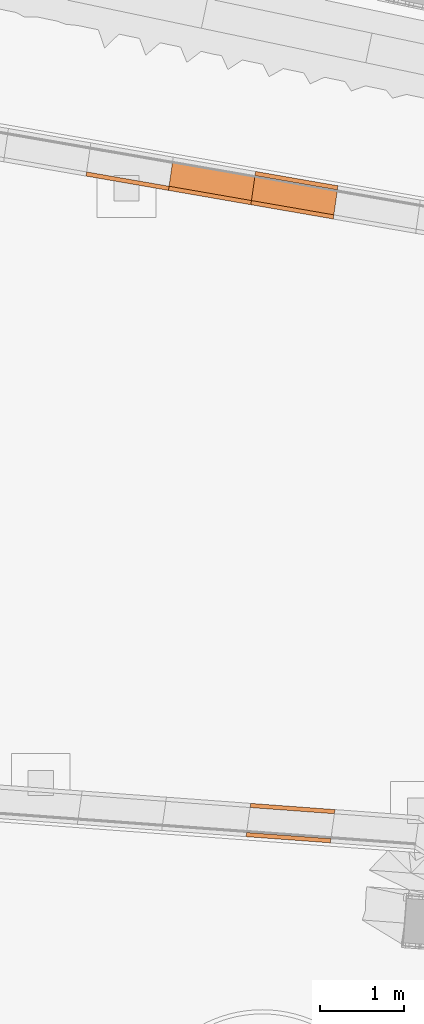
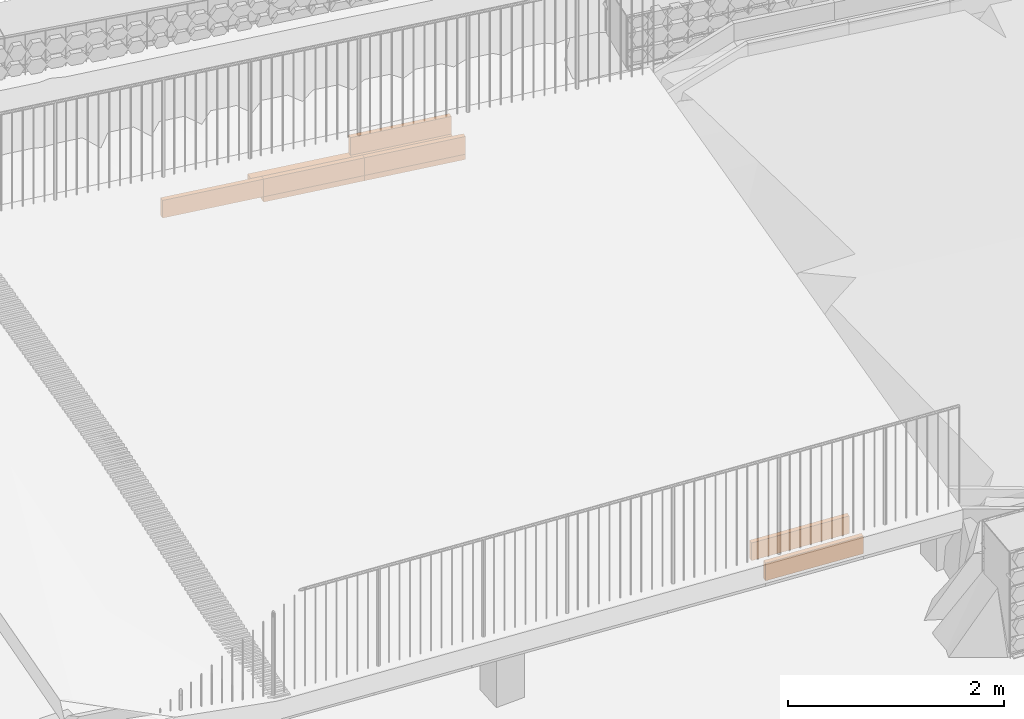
# Not in any storey, part 21 of 45: 8 proxies.
"""IFC4 model written with IfcOpenShell, lengths in metres."""

from ifc_helpers import new_model, si_unit, direction, frame, origin_with_axes, place, context, subcontext, project, spatial, polygons, material, element, save


model = new_model("IFC4")

# Units and contexts
model_context = context("Model", 3, precision=1e-05, world=origin_with_axes(), true_north=direction((0.0, 1.0)))
body_context = subcontext(model_context, "Body", "Model", "MODEL_VIEW")
ifc_project = project(units=[si_unit("VOLUMEUNIT", "CUBIC_METRE"), si_unit("LENGTHUNIT", "METRE"), si_unit("AREAUNIT", "SQUARE_METRE")], contexts=[model_context])

# Site
site_placement = place(None, origin_with_axes())
site = spatial("IfcSite", under=ifc_project, at=site_placement, Name="Lares · Rua das Mercês · artigo 4771")

# Proxies
ifc_material = material(Name="Caleiras · betão", Category="concrete")
proxy_1_placement = place(site_placement, frame((0.0, 0.0, 0.0), z_axis=(0.0, 0.0, 1.0), x_axis=(1.0, -1.03767253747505e-17, 0.0)))
element("IfcBuildingElementProxy", 1, at=proxy_1_placement, inside=site, material=ifc_material, Name="Acesso · canal lateral", ObjectType="Acesso · canal lateral", PredefinedType="USERDEFINED", context=body_context, shape_type="Tessellation", body=[
    polygons([(53.6729766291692, 2.72514176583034, 15.285), (53.6799395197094, 2.77465457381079, 15.285), (54.6839488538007, 2.70086581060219, 15.286), (54.6769860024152, 2.65135299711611, 15.286), (53.6729766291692, 2.72514176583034, 15.485), (53.6799395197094, 2.77465457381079, 15.485), (54.6839488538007, 2.70086581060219, 15.486), (54.6769860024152, 2.65135299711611, 15.486)], [[[4, 3, 2, 1]], [[5, 6, 7, 8]], [[1, 2, 6, 5]], [[2, 3, 7, 6]], [[3, 4, 8, 7]], [[4, 1, 5, 8]]]),
])
proxy_2_placement = place(site_placement, frame((0.0, 0.0, 0.0), z_axis=(0.0, 0.0, 1.0), x_axis=(1.0, -1.03767253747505e-17, 0.0)))
element("IfcBuildingElementProxy", 2, at=proxy_2_placement, inside=site, material=ifc_material, Name="Acesso · canal lateral", ObjectType="Acesso · canal lateral", PredefinedType="USERDEFINED", context=body_context, shape_type="Tessellation", body=[
    polygons([(53.721716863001, 3.07173142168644, 15.285), (53.728679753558, 3.12124422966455, 15.285), (54.7326888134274, 3.04745550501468, 15.286), (54.7257259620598, 2.99794269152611, 15.286), (53.721716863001, 3.07173142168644, 15.485), (53.728679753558, 3.12124422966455, 15.485), (54.7326888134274, 3.04745550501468, 15.486), (54.7257259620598, 2.99794269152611, 15.486)], [[[4, 3, 2, 1]], [[5, 6, 7, 8]], [[1, 2, 6, 5]], [[2, 3, 7, 6]], [[3, 4, 8, 7]], [[4, 1, 5, 8]]]),
])
proxy_3_placement = place(site_placement, frame((0.0, 0.0, 0.0), z_axis=(0.0, 0.0, 1.0), x_axis=(1.0, -1.03767253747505e-17, 0.0)))
element("IfcBuildingElementProxy", 3, at=proxy_3_placement, inside=site, material=ifc_material, Name="Acesso · canal lateral", ObjectType="Acesso · canal lateral", PredefinedType="USERDEFINED", context=body_context, shape_type="Tessellation", body=[
    polygons([(51.7681638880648, 10.5909651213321, 15.282), (51.7753071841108, 10.6404522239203, 15.282), (52.7563120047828, 10.4700437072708, 15.283), (52.7491686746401, 10.4205566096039, 15.283), (51.7681638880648, 10.5909651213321, 15.482), (51.7753071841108, 10.6404522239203, 15.482), (52.7563120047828, 10.4700437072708, 15.483), (52.7491686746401, 10.4205566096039, 15.483)], [[[4, 3, 2, 1]], [[5, 6, 7, 8]], [[1, 2, 6, 5]], [[2, 3, 7, 6]], [[3, 4, 8, 7]], [[4, 1, 5, 8]]]),
])
proxy_4_placement = place(site_placement, frame((0.0, 0.0, 0.0), z_axis=(0.0, 0.0, 1.0), x_axis=(1.0, -1.03767253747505e-17, 0.0)))
element("IfcBuildingElementProxy", 4, at=proxy_4_placement, inside=site, material=ifc_material, Name="Acesso · canal lateral", ObjectType="Acesso · canal lateral", PredefinedType="USERDEFINED", context=body_context, shape_type="Tessellation", body=[
    polygons([(52.7494034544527, 10.4205228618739, 15.223), (52.8060805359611, 10.8164871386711, 15.223), (53.7870925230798, 10.6460779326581, 15.224), (53.7304151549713, 10.2501136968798, 15.224), (52.7494034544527, 10.4205228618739, 15.283), (52.8060805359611, 10.8164871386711, 15.283), (53.7870925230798, 10.6460779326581, 15.284), (53.7304151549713, 10.2501136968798, 15.284)], [[[4, 3, 2, 1]], [[5, 6, 7, 8]], [[1, 2, 6, 5]], [[2, 3, 7, 6]], [[3, 4, 8, 7]], [[4, 1, 5, 8]]]),
])
proxy_5_placement = place(site_placement, frame((0.0, 0.0, 0.0), z_axis=(0.0, 0.0, 1.0), x_axis=(1.0, -1.03767253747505e-17, 0.0)))
element("IfcBuildingElementProxy", 5, at=proxy_5_placement, inside=site, material=ifc_material, Name="Acesso · canal lateral", ObjectType="Acesso · canal lateral", PredefinedType="USERDEFINED", context=body_context, shape_type="Tessellation", body=[
    polygons([(52.7494034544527, 10.4205228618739, 15.283), (52.7564880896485, 10.4700183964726, 15.283), (53.737499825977, 10.2996092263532, 15.284), (53.7304151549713, 10.2501136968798, 15.284), (52.7494034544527, 10.4205228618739, 15.483), (52.7564880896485, 10.4700183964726, 15.483), (53.737499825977, 10.2996092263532, 15.484), (53.7304151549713, 10.2501136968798, 15.484)], [[[4, 3, 2, 1]], [[5, 6, 7, 8]], [[1, 2, 6, 5]], [[2, 3, 7, 6]], [[3, 4, 8, 7]], [[4, 1, 5, 8]]]),
])
proxy_6_placement = place(site_placement, frame((0.0, 0.0, 0.0), z_axis=(0.0, 0.0, 1.0), x_axis=(1.0, -1.03767253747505e-17, 0.0)))
element("IfcBuildingElementProxy", 6, at=proxy_6_placement, inside=site, material=ifc_material, Name="Acesso · canal lateral", ObjectType="Acesso · canal lateral", PredefinedType="USERDEFINED", context=body_context, shape_type="Tessellation", body=[
    polygons([(53.7306558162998, 10.2500793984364, 15.224), (53.7868518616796, 10.6461122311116, 15.224), (54.767871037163, 10.4757023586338, 15.225), (54.7116746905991, 10.0796695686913, 15.225), (53.7306558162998, 10.2500793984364, 15.284), (53.7868518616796, 10.6461122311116, 15.284), (54.767871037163, 10.4757023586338, 15.285), (54.7116746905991, 10.0796695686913, 15.285)], [[[4, 3, 2, 1]], [[5, 6, 7, 8]], [[1, 2, 6, 5]], [[2, 3, 7, 6]], [[3, 4, 8, 7]], [[4, 1, 5, 8]]]),
])
proxy_7_placement = place(site_placement, frame((0.0, 0.0, 0.0), z_axis=(0.0, 0.0, 1.0), x_axis=(1.0, -1.03767253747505e-17, 0.0)))
element("IfcBuildingElementProxy", 7, at=proxy_7_placement, inside=site, material=ifc_material, Name="Acesso · canal lateral", ObjectType="Acesso · canal lateral", PredefinedType="USERDEFINED", context=body_context, shape_type="Tessellation", body=[
    polygons([(53.7306558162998, 10.2500793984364, 15.284), (53.7376803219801, 10.2995835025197, 15.284), (54.7186992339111, 10.1291736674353, 15.285), (54.711674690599, 10.0796695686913, 15.285), (53.7306558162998, 10.2500793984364, 15.484), (53.7376803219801, 10.2995835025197, 15.484), (54.7186992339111, 10.1291736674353, 15.485), (54.711674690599, 10.0796695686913, 15.485)], [[[4, 3, 2, 1]], [[5, 6, 7, 8]], [[1, 2, 6, 5]], [[2, 3, 7, 6]], [[3, 4, 8, 7]], [[4, 1, 5, 8]]]),
])
proxy_8_placement = place(site_placement, frame((0.0, 0.0, 0.0), z_axis=(0.0, 0.0, 1.0), x_axis=(1.0, -1.03767253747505e-17, 0.0)))
element("IfcBuildingElementProxy", 8, at=proxy_8_placement, inside=site, material=ifc_material, Name="Acesso · canal lateral", ObjectType="Acesso · canal lateral", PredefinedType="USERDEFINED", context=body_context, shape_type="Tessellation", body=[
    polygons([(53.779827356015, 10.596608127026, 15.284), (53.7868518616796, 10.6461122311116, 15.284), (54.767871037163, 10.4757023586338, 15.285), (54.760846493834, 10.4261982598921, 15.285), (53.779827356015, 10.596608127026, 15.484), (53.7868518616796, 10.6461122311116, 15.484), (54.767871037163, 10.4757023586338, 15.485), (54.760846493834, 10.4261982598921, 15.485)], [[[4, 3, 2, 1]], [[5, 6, 7, 8]], [[1, 2, 6, 5]], [[2, 3, 7, 6]], [[3, 4, 8, 7]], [[4, 1, 5, 8]]]),
])

save(model, "model.ifc")
